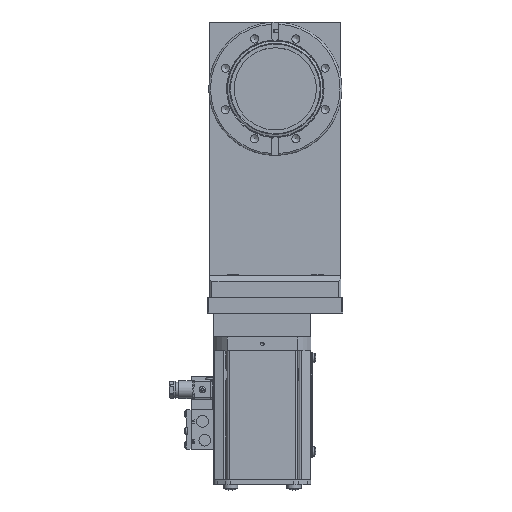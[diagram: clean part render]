
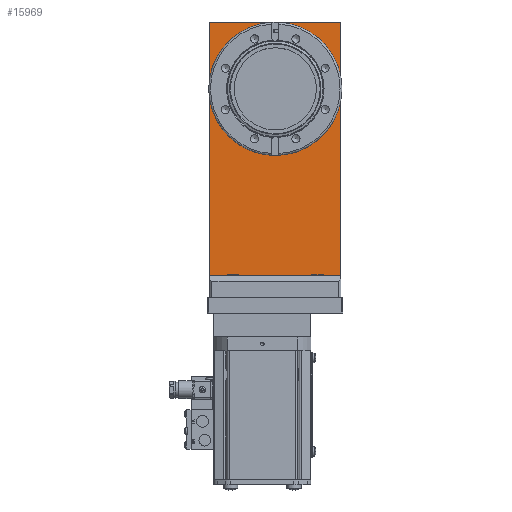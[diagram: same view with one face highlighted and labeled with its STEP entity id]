
A CAD part, top view. The second image highlights one B-rep face of the part: STEP entity #15969.
In plain terms, the highlighted planar face has unit normal (0, 0, 1).
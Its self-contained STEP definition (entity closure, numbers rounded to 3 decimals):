
#7361=LINE('',#41048,#9071);
#7366=LINE('',#41063,#9076);
#7368=LINE('',#41067,#9078);
#7371=LINE('',#41072,#9081);
#9071=VECTOR('',#34645,1.);
#9076=VECTOR('',#34652,1.);
#9078=VECTOR('',#34656,1.);
#9081=VECTOR('',#34661,1.);
#15969=ADVANCED_FACE('',(#17915,#17916),#17161,.T.);
#17161=PLANE('',#31593);
#17915=FACE_BOUND('',#19030,.T.);
#17916=FACE_BOUND('',#19031,.T.);
#19030=EDGE_LOOP('',(#21835,#21836,#21837,#21838));
#19031=EDGE_LOOP('',(#21839));
#21835=ORIENTED_EDGE('',*,*,#28519,.F.);
#21836=ORIENTED_EDGE('',*,*,#28525,.T.);
#21837=ORIENTED_EDGE('',*,*,#28530,.T.);
#21838=ORIENTED_EDGE('',*,*,#28527,.T.);
#21839=ORIENTED_EDGE('',*,*,#28532,.F.);
#26284=VERTEX_POINT('',#41047);
#26285=VERTEX_POINT('',#41049);
#26289=VERTEX_POINT('',#41062);
#26291=VERTEX_POINT('',#41068);
#26293=VERTEX_POINT('',#41077);
#28519=EDGE_CURVE('',#26284,#26285,#7361,.T.);
#28525=EDGE_CURVE('',#26284,#26289,#7366,.T.);
#28527=EDGE_CURVE('',#26291,#26285,#7368,.T.);
#28530=EDGE_CURVE('',#26289,#26291,#7371,.T.);
#28532=EDGE_CURVE('',#26293,#26293,#30568,.T.);
#30568=CIRCLE('',#31591,35.05);
#31591=AXIS2_PLACEMENT_3D('',#41076,#34666,#34667);
#31593=AXIS2_PLACEMENT_3D('',#41079,#34670,#34671);
#34645=DIRECTION('',(-1.,0.,0.));
#34652=DIRECTION('',(0.,1.,0.));
#34656=DIRECTION('',(0.,-1.,0.));
#34661=DIRECTION('',(-1.,0.,0.));
#34666=DIRECTION('',(0.,0.,1.));
#34667=DIRECTION('',(1.,0.,0.));
#34670=DIRECTION('',(0.,0.,1.));
#34671=DIRECTION('',(1.,0.,0.));
#41047=CARTESIAN_POINT('',(56.,-177.8,26.975));
#41048=CARTESIAN_POINT('',(0.,-177.8,26.975));
#41049=CARTESIAN_POINT('',(-56.,-177.8,26.975));
#41062=CARTESIAN_POINT('',(56.,57.05,26.975));
#41063=CARTESIAN_POINT('',(56.,-179.1,26.975));
#41067=CARTESIAN_POINT('',(-56.,57.05,26.975));
#41068=CARTESIAN_POINT('',(-56.,57.05,26.975));
#41072=CARTESIAN_POINT('',(56.,57.05,26.975));
#41076=CARTESIAN_POINT('',(0.,0.,
26.975));
#41077=CARTESIAN_POINT('',(35.05,0.,26.975));
#41079=CARTESIAN_POINT('',(0.,0.,
26.975));
